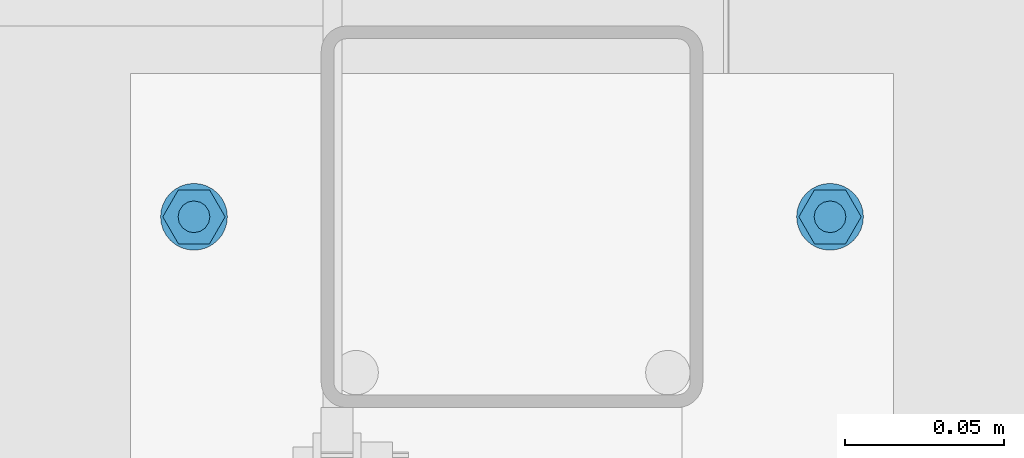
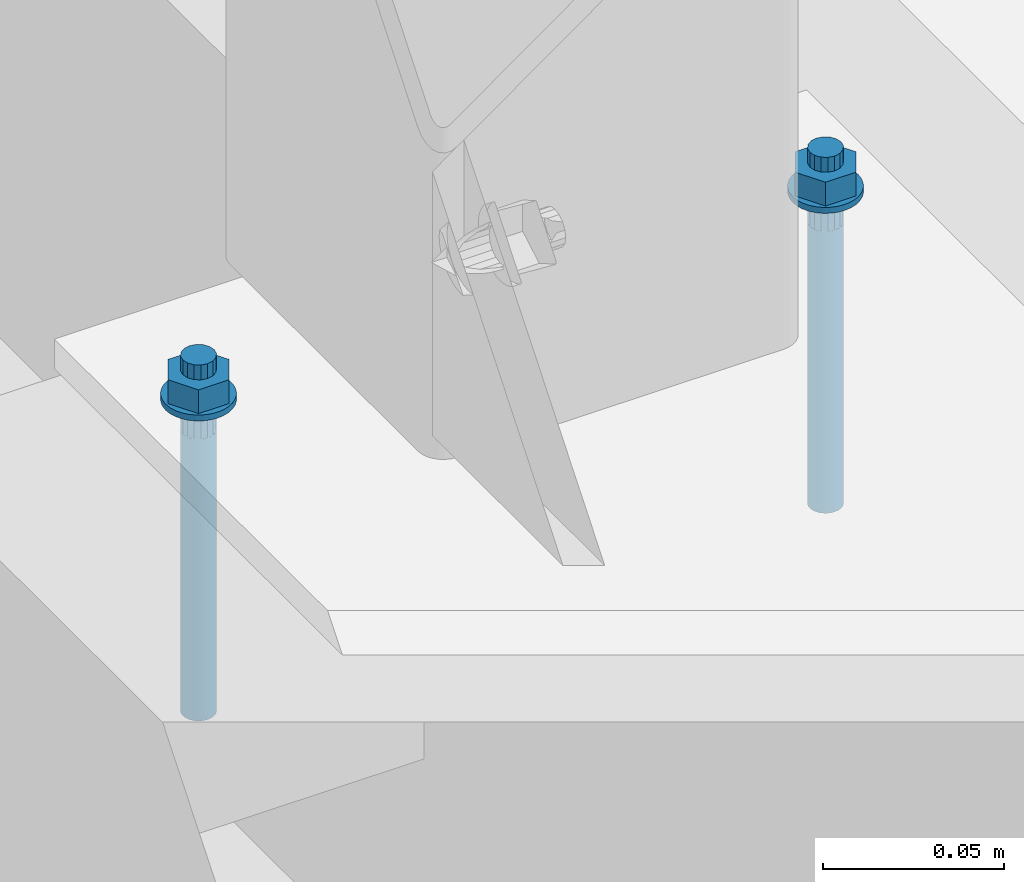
# One storey, part 92 of 476: 1 mechanical fastener.
"""IFC2X3 building model written with IfcOpenShell, lengths in millimetres."""

from ifc_helpers import new_model, entity, si_unit, converted_unit, origin_with_axes, place, context, project, spatial, faceted_brep, element, save


model = new_model("IFC2X3")

# Units and contexts
model_context = context("Model", 3, precision=1e-09, world=origin_with_axes())
ifc_project = project(units=[si_unit("LENGTHUNIT", "METRE", prefix="MILLI"), si_unit("AREAUNIT", "SQUARE_METRE"), si_unit("VOLUMEUNIT", "CUBIC_METRE"), converted_unit("PLANEANGLEUNIT", "DEGREE", entity("IfcPlaneAngleMeasure", 0.01745329), si_unit("PLANEANGLEUNIT", "RADIAN"), dimensions=[0, 0, 0, 0, 0, 0, 0])], contexts=[model_context])

# Site, building, storey
site_placement = place(None, origin_with_axes())
site = spatial("IfcSite", under=ifc_project, at=site_placement, Name="mKR Teilneubau & Sanierung BA1 - Ostfildern", CompositionType="ELEMENT")
building_placement = place(site_placement, origin_with_axes())
building = spatial("IfcBuilding", under=site, at=building_placement, Name="Struktur 1", CompositionType="ELEMENT")
storey_placement = place(building_placement, origin_with_axes())
storey = spatial("IfcBuildingStorey", under=building, at=storey_placement, Name="Default Storey", CompositionType="ELEMENT", Elevation=0.0)

# Mechanical fastener
mechanical_fastener_placement = place(None, origin_with_axes())
element("IfcMechanicalFastener", 1, at=mechanical_fastener_placement, inside=storey, ObjectType="Anchor_Bolt#1", NominalDiameter=10.0, NominalLength=120.0, context=model_context, shape_type="Brep", body=[
    faceted_brep([(8059.108804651, -19151.174034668, 527.0), (8059.108804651, -19151.174034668, 525.0), (8061.157253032, -19150.972280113, 525.0), (8061.157253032, -19150.972280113, 527.0), (8063.126980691, -19150.37476976, 525.0), (8063.126980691, -19150.37476976, 527.0), (8064.942292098, -19149.404465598, 525.0), (8064.942292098, -19149.404465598, 527.0), (8066.533425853, -19148.098655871, 525.0), (8066.533425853, -19148.098655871, 527.0), (8067.83923558, -19146.507522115, 525.0), (8067.83923558, -19146.507522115, 527.0), (8068.809539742, -19144.692210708, 525.0), (8068.809539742, -19144.692210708, 527.0), (8069.407050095, -19142.72248305, 525.0), (8069.407050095, -19142.72248305, 527.0), (8069.608804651, -19140.674034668, 525.0), (8069.608804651, -19140.674034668, 527.0), (8069.407050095, -19138.625586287, 525.0), (8069.407050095, -19138.625586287, 527.0), (8068.809539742, -19136.655858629, 525.0), (8068.809539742, -19136.655858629, 527.0), (8067.83923558, -19134.840547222, 525.0), (8067.83923558, -19134.840547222, 527.0), (8066.533425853, -19133.249413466, 525.0), (8066.533425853, -19133.249413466, 527.0), (8064.942292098, -19131.943603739, 525.0), (8064.942292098, -19131.943603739, 527.0), (8063.126980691, -19130.973299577, 525.0), (8063.126980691, -19130.973299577, 527.0), (8061.157253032, -19130.375789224, 525.0), (8061.157253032, -19130.375789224, 527.0), (8059.108804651, -19130.174034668, 525.0), (8059.108804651, -19130.174034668, 527.0), (8057.06035627, -19130.375789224, 525.0), (8057.06035627, -19130.375789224, 527.0), (8055.090628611, -19130.973299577, 525.0), (8055.090628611, -19130.973299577, 527.0), (8053.275317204, -19131.943603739, 525.0), (8053.275317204, -19131.943603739, 527.0), (8051.684183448, -19133.249413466, 525.0), (8051.684183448, -19133.249413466, 527.0), (8050.378373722, -19134.840547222, 525.0), (8050.378373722, -19134.840547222, 527.0), (8049.40806956, -19136.655858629, 525.0), (8049.40806956, -19136.655858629, 527.0), (8048.810559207, -19138.625586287, 525.0), (8048.810559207, -19138.625586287, 527.0), (8048.608804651, -19140.674034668, 525.0), (8048.608804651, -19140.674034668, 527.0), (8048.810559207, -19142.72248305, 525.0), (8048.810559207, -19142.72248305, 527.0), (8049.40806956, -19144.692210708, 525.0), (8049.40806956, -19144.692210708, 527.0), (8050.378373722, -19146.507522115, 525.0), (8050.378373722, -19146.507522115, 527.0), (8051.684183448, -19148.098655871, 525.0), (8051.684183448, -19148.098655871, 527.0), (8053.275317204, -19149.404465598, 525.0), (8053.275317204, -19149.404465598, 527.0), (8055.090628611, -19150.37476976, 525.0), (8055.090628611, -19150.37476976, 527.0), (8057.06035627, -19150.972280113, 525.0), (8057.06035627, -19150.972280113, 527.0)], [[[0, 1, 2, 3]], [[3, 2, 4, 5]], [[5, 4, 6, 7]], [[7, 6, 8, 9]], [[9, 8, 10, 11]], [[11, 10, 12, 13]], [[13, 12, 14, 15]], [[15, 14, 16, 17]], [[17, 16, 18, 19]], [[19, 18, 20, 21]], [[21, 20, 22, 23]], [[23, 22, 24, 25]], [[25, 24, 26, 27]], [[27, 26, 28, 29]], [[29, 28, 30, 31]], [[31, 30, 32, 33]], [[33, 32, 34, 35]], [[35, 34, 36, 37]], [[37, 36, 38, 39]], [[39, 38, 40, 41]], [[41, 40, 42, 43]], [[43, 42, 44, 45]], [[45, 44, 46, 47]], [[47, 46, 48, 49]], [[49, 48, 50, 51]], [[51, 50, 52, 53]], [[53, 52, 54, 55]], [[55, 54, 56, 57]], [[57, 56, 58, 59]], [[59, 58, 60, 61]], [[61, 60, 62, 63]], [[63, 62, 1, 0]], [[0, 3, 5, 7, 9, 11, 13, 15, 17, 19, 21, 23, 25, 27, 29, 31, 33, 35, 37, 39, 41, 43, 45, 47, 49, 51, 53, 55, 57, 59, 61, 63]], [[1, 62, 60, 58, 56, 54, 52, 50, 48, 46, 44, 42, 40, 38, 36, 34, 32, 30, 28, 26, 24, 22, 20, 18, 16, 14, 12, 10, 8, 6, 4, 2]]]),
    faceted_brep([(8259.108804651, -19151.174034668, 527.0), (8259.108804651, -19151.174034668, 525.0), (8261.157253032, -19150.972280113, 525.0), (8261.157253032, -19150.972280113, 527.0), (8263.126980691, -19150.37476976, 525.0), (8263.126980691, -19150.37476976, 527.0), (8264.942292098, -19149.404465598, 525.0), (8264.942292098, -19149.404465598, 527.0), (8266.533425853, -19148.098655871, 525.0), (8266.533425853, -19148.098655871, 527.0), (8267.83923558, -19146.507522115, 525.0), (8267.83923558, -19146.507522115, 527.0), (8268.809539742, -19144.692210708, 525.0), (8268.809539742, -19144.692210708, 527.0), (8269.407050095, -19142.72248305, 525.0), (8269.407050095, -19142.72248305, 527.0), (8269.608804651, -19140.674034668, 525.0), (8269.608804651, -19140.674034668, 527.0), (8269.407050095, -19138.625586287, 525.0), (8269.407050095, -19138.625586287, 527.0), (8268.809539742, -19136.655858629, 525.0), (8268.809539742, -19136.655858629, 527.0), (8267.83923558, -19134.840547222, 525.0), (8267.83923558, -19134.840547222, 527.0), (8266.533425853, -19133.249413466, 525.0), (8266.533425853, -19133.249413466, 527.0), (8264.942292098, -19131.943603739, 525.0), (8264.942292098, -19131.943603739, 527.0), (8263.126980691, -19130.973299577, 525.0), (8263.126980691, -19130.973299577, 527.0), (8261.157253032, -19130.375789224, 525.0), (8261.157253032, -19130.375789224, 527.0), (8259.108804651, -19130.174034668, 525.0), (8259.108804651, -19130.174034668, 527.0), (8257.06035627, -19130.375789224, 525.0), (8257.06035627, -19130.375789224, 527.0), (8255.090628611, -19130.973299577, 525.0), (8255.090628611, -19130.973299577, 527.0), (8253.275317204, -19131.943603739, 525.0), (8253.275317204, -19131.943603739, 527.0), (8251.684183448, -19133.249413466, 525.0), (8251.684183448, -19133.249413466, 527.0), (8250.378373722, -19134.840547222, 525.0), (8250.378373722, -19134.840547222, 527.0), (8249.40806956, -19136.655858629, 525.0), (8249.40806956, -19136.655858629, 527.0), (8248.810559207, -19138.625586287, 525.0), (8248.810559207, -19138.625586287, 527.0), (8248.608804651, -19140.674034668, 525.0), (8248.608804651, -19140.674034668, 527.0), (8248.810559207, -19142.72248305, 525.0), (8248.810559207, -19142.72248305, 527.0), (8249.40806956, -19144.692210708, 525.0), (8249.40806956, -19144.692210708, 527.0), (8250.378373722, -19146.507522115, 525.0), (8250.378373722, -19146.507522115, 527.0), (8251.684183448, -19148.098655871, 525.0), (8251.684183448, -19148.098655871, 527.0), (8253.275317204, -19149.404465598, 525.0), (8253.275317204, -19149.404465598, 527.0), (8255.090628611, -19150.37476976, 525.0), (8255.090628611, -19150.37476976, 527.0), (8257.06035627, -19150.972280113, 525.0), (8257.06035627, -19150.972280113, 527.0)], [[[0, 1, 2, 3]], [[3, 2, 4, 5]], [[5, 4, 6, 7]], [[7, 6, 8, 9]], [[9, 8, 10, 11]], [[11, 10, 12, 13]], [[13, 12, 14, 15]], [[15, 14, 16, 17]], [[17, 16, 18, 19]], [[19, 18, 20, 21]], [[21, 20, 22, 23]], [[23, 22, 24, 25]], [[25, 24, 26, 27]], [[27, 26, 28, 29]], [[29, 28, 30, 31]], [[31, 30, 32, 33]], [[33, 32, 34, 35]], [[35, 34, 36, 37]], [[37, 36, 38, 39]], [[39, 38, 40, 41]], [[41, 40, 42, 43]], [[43, 42, 44, 45]], [[45, 44, 46, 47]], [[47, 46, 48, 49]], [[49, 48, 50, 51]], [[51, 50, 52, 53]], [[53, 52, 54, 55]], [[55, 54, 56, 57]], [[57, 56, 58, 59]], [[59, 58, 60, 61]], [[61, 60, 62, 63]], [[63, 62, 1, 0]], [[0, 3, 5, 7, 9, 11, 13, 15, 17, 19, 21, 23, 25, 27, 29, 31, 33, 35, 37, 39, 41, 43, 45, 47, 49, 51, 53, 55, 57, 59, 61, 63]], [[1, 62, 60, 58, 56, 54, 52, 50, 48, 46, 44, 42, 40, 38, 36, 34, 32, 30, 28, 26, 24, 22, 20, 18, 16, 14, 12, 10, 8, 6, 4, 2]]]),
    faceted_brep([(8064.008804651, -19132.186985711, 527.0), (8064.008804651, -19132.186985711, 535.0), (8068.908804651, -19140.674034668, 535.0), (8068.908804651, -19140.674034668, 527.0), (8064.008804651, -19149.161083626, 535.0), (8064.008804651, -19149.161083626, 527.0), (8054.208804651, -19149.161083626, 535.0), (8054.208804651, -19149.161083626, 527.0), (8049.308804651, -19140.674034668, 535.0), (8049.308804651, -19140.674034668, 527.0), (8054.208804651, -19132.186985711, 535.0), (8054.208804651, -19132.186985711, 527.0)], [[[0, 1, 2, 3]], [[3, 2, 4, 5]], [[5, 4, 6, 7]], [[7, 6, 8, 9]], [[9, 8, 10, 11]], [[11, 10, 1, 0]], [[4, 2, 1, 10, 8, 6]], [[0, 3, 5, 7, 9, 11]]]),
    faceted_brep([(8264.008804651, -19132.186985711, 527.0), (8264.008804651, -19132.186985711, 535.0), (8268.908804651, -19140.674034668, 535.0), (8268.908804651, -19140.674034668, 527.0), (8264.008804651, -19149.161083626, 535.0), (8264.008804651, -19149.161083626, 527.0), (8254.208804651, -19149.161083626, 535.0), (8254.208804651, -19149.161083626, 527.0), (8249.308804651, -19140.674034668, 535.0), (8249.308804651, -19140.674034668, 527.0), (8254.208804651, -19132.186985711, 535.0), (8254.208804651, -19132.186985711, 527.0)], [[[0, 1, 2, 3]], [[3, 2, 4, 5]], [[5, 4, 6, 7]], [[7, 6, 8, 9]], [[9, 8, 10, 11]], [[11, 10, 1, 0]], [[4, 2, 1, 10, 8, 6]], [[0, 3, 5, 7, 9, 11]]]),
    faceted_brep([(8059.108804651, -19145.674034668, 540.0), (8059.108804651, -19145.674034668, 535.0), (8061.022221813, -19145.293432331, 535.0), (8061.022221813, -19145.293432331, 540.0), (8062.644338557, -19144.209568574, 535.0), (8062.644338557, -19144.209568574, 540.0), (8063.728202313, -19142.58745183, 535.0), (8063.728202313, -19142.58745183, 540.0), (8064.108804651, -19140.674034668, 535.0), (8064.108804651, -19140.674034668, 540.0), (8063.728202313, -19138.760617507, 535.0), (8063.728202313, -19138.760617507, 540.0), (8062.644338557, -19137.138500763, 535.0), (8062.644338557, -19137.138500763, 540.0), (8061.022221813, -19136.054637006, 535.0), (8061.022221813, -19136.054637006, 540.0), (8059.108804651, -19135.674034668, 535.0), (8059.108804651, -19135.674034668, 540.0), (8057.195387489, -19136.054637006, 535.0), (8057.195387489, -19136.054637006, 540.0), (8055.573270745, -19137.138500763, 535.0), (8055.573270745, -19137.138500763, 540.0), (8054.489406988, -19138.760617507, 535.0), (8054.489406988, -19138.760617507, 540.0), (8054.108804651, -19140.674034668, 535.0), (8054.108804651, -19140.674034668, 540.0), (8054.489406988, -19142.58745183, 535.0), (8054.489406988, -19142.58745183, 540.0), (8055.573270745, -19144.209568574, 535.0), (8055.573270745, -19144.209568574, 540.0), (8057.195387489, -19145.293432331, 535.0), (8057.195387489, -19145.293432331, 540.0)], [[[0, 1, 2, 3]], [[3, 2, 4, 5]], [[5, 4, 6, 7]], [[7, 6, 8, 9]], [[9, 8, 10, 11]], [[11, 10, 12, 13]], [[13, 12, 14, 15]], [[15, 14, 16, 17]], [[17, 16, 18, 19]], [[19, 18, 20, 21]], [[21, 20, 22, 23]], [[23, 22, 24, 25]], [[25, 24, 26, 27]], [[27, 26, 28, 29]], [[29, 28, 30, 31]], [[31, 30, 1, 0]], [[0, 3, 5, 7, 9, 11, 13, 15, 17, 19, 21, 23, 25, 27, 29, 31]], [[1, 30, 28, 26, 24, 22, 20, 18, 16, 14, 12, 10, 8, 6, 4, 2]]]),
    faceted_brep([(8259.108804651, -19145.674034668, 540.0), (8259.108804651, -19145.674034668, 535.0), (8261.022221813, -19145.293432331, 535.0), (8261.022221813, -19145.293432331, 540.0), (8262.644338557, -19144.209568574, 535.0), (8262.644338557, -19144.209568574, 540.0), (8263.728202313, -19142.58745183, 535.0), (8263.728202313, -19142.58745183, 540.0), (8264.108804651, -19140.674034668, 535.0), (8264.108804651, -19140.674034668, 540.0), (8263.728202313, -19138.760617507, 535.0), (8263.728202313, -19138.760617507, 540.0), (8262.644338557, -19137.138500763, 535.0), (8262.644338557, -19137.138500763, 540.0), (8261.022221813, -19136.054637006, 535.0), (8261.022221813, -19136.054637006, 540.0), (8259.108804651, -19135.674034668, 535.0), (8259.108804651, -19135.674034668, 540.0), (8257.195387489, -19136.054637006, 535.0), (8257.195387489, -19136.054637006, 540.0), (8255.573270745, -19137.138500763, 535.0), (8255.573270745, -19137.138500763, 540.0), (8254.489406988, -19138.760617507, 535.0), (8254.489406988, -19138.760617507, 540.0), (8254.108804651, -19140.674034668, 535.0), (8254.108804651, -19140.674034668, 540.0), (8254.489406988, -19142.58745183, 535.0), (8254.489406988, -19142.58745183, 540.0), (8255.573270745, -19144.209568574, 535.0), (8255.573270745, -19144.209568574, 540.0), (8257.195387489, -19145.293432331, 535.0), (8257.195387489, -19145.293432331, 540.0)], [[[0, 1, 2, 3]], [[3, 2, 4, 5]], [[5, 4, 6, 7]], [[7, 6, 8, 9]], [[9, 8, 10, 11]], [[11, 10, 12, 13]], [[13, 12, 14, 15]], [[15, 14, 16, 17]], [[17, 16, 18, 19]], [[19, 18, 20, 21]], [[21, 20, 22, 23]], [[23, 22, 24, 25]], [[25, 24, 26, 27]], [[27, 26, 28, 29]], [[29, 28, 30, 31]], [[31, 30, 1, 0]], [[0, 3, 5, 7, 9, 11, 13, 15, 17, 19, 21, 23, 25, 27, 29, 31]], [[1, 30, 28, 26, 24, 22, 20, 18, 16, 14, 12, 10, 8, 6, 4, 2]]]),
    faceted_brep([(8059.108804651, -19145.674034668, 525.0), (8059.108804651, -19145.674034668, 515.0), (8061.022221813, -19145.293432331, 515.0), (8061.022221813, -19145.293432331, 525.0), (8062.644338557, -19144.209568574, 515.0), (8062.644338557, -19144.209568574, 525.0), (8063.728202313, -19142.58745183, 515.0), (8063.728202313, -19142.58745183, 525.0), (8064.108804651, -19140.674034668, 515.0), (8064.108804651, -19140.674034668, 525.0), (8063.728202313, -19138.760617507, 515.0), (8063.728202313, -19138.760617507, 525.0), (8062.644338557, -19137.138500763, 515.0), (8062.644338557, -19137.138500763, 525.0), (8061.022221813, -19136.054637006, 515.0), (8061.022221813, -19136.054637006, 525.0), (8059.108804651, -19135.674034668, 515.0), (8059.108804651, -19135.674034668, 525.0), (8057.195387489, -19136.054637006, 515.0), (8057.195387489, -19136.054637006, 525.0), (8055.573270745, -19137.138500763, 515.0), (8055.573270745, -19137.138500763, 525.0), (8054.489406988, -19138.760617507, 515.0), (8054.489406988, -19138.760617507, 525.0), (8054.108804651, -19140.674034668, 515.0), (8054.108804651, -19140.674034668, 525.0), (8054.489406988, -19142.58745183, 515.0), (8054.489406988, -19142.58745183, 525.0), (8055.573270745, -19144.209568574, 515.0), (8055.573270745, -19144.209568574, 525.0), (8057.195387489, -19145.293432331, 515.0), (8057.195387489, -19145.293432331, 525.0)], [[[0, 1, 2, 3]], [[3, 2, 4, 5]], [[5, 4, 6, 7]], [[7, 6, 8, 9]], [[9, 8, 10, 11]], [[11, 10, 12, 13]], [[13, 12, 14, 15]], [[15, 14, 16, 17]], [[17, 16, 18, 19]], [[19, 18, 20, 21]], [[21, 20, 22, 23]], [[23, 22, 24, 25]], [[25, 24, 26, 27]], [[27, 26, 28, 29]], [[29, 28, 30, 31]], [[31, 30, 1, 0]], [[0, 3, 5, 7, 9, 11, 13, 15, 17, 19, 21, 23, 25, 27, 29, 31]], [[1, 30, 28, 26, 24, 22, 20, 18, 16, 14, 12, 10, 8, 6, 4, 2]]]),
    faceted_brep([(8259.108804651, -19145.674034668, 525.0), (8259.108804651, -19145.674034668, 515.0), (8261.022221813, -19145.293432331, 515.0), (8261.022221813, -19145.293432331, 525.0), (8262.644338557, -19144.209568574, 515.0), (8262.644338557, -19144.209568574, 525.0), (8263.728202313, -19142.58745183, 515.0), (8263.728202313, -19142.58745183, 525.0), (8264.108804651, -19140.674034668, 515.0), (8264.108804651, -19140.674034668, 525.0), (8263.728202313, -19138.760617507, 515.0), (8263.728202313, -19138.760617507, 525.0), (8262.644338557, -19137.138500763, 515.0), (8262.644338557, -19137.138500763, 525.0), (8261.022221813, -19136.054637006, 515.0), (8261.022221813, -19136.054637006, 525.0), (8259.108804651, -19135.674034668, 515.0), (8259.108804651, -19135.674034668, 525.0), (8257.195387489, -19136.054637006, 515.0), (8257.195387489, -19136.054637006, 525.0), (8255.573270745, -19137.138500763, 515.0), (8255.573270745, -19137.138500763, 525.0), (8254.489406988, -19138.760617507, 515.0), (8254.489406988, -19138.760617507, 525.0), (8254.108804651, -19140.674034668, 515.0), (8254.108804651, -19140.674034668, 525.0), (8254.489406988, -19142.58745183, 515.0), (8254.489406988, -19142.58745183, 525.0), (8255.573270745, -19144.209568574, 515.0), (8255.573270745, -19144.209568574, 525.0), (8257.195387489, -19145.293432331, 515.0), (8257.195387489, -19145.293432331, 525.0)], [[[0, 1, 2, 3]], [[3, 2, 4, 5]], [[5, 4, 6, 7]], [[7, 6, 8, 9]], [[9, 8, 10, 11]], [[11, 10, 12, 13]], [[13, 12, 14, 15]], [[15, 14, 16, 17]], [[17, 16, 18, 19]], [[19, 18, 20, 21]], [[21, 20, 22, 23]], [[23, 22, 24, 25]], [[25, 24, 26, 27]], [[27, 26, 28, 29]], [[29, 28, 30, 31]], [[31, 30, 1, 0]], [[0, 3, 5, 7, 9, 11, 13, 15, 17, 19, 21, 23, 25, 27, 29, 31]], [[1, 30, 28, 26, 24, 22, 20, 18, 16, 14, 12, 10, 8, 6, 4, 2]]]),
    faceted_brep([(8059.108804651, -19145.674034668, 515.0), (8059.108804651, -19145.674034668, 420.0), (8060.084256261, -19145.57796107, 420.0), (8060.084256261, -19145.57796107, 515.0), (8061.022221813, -19145.293432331, 420.0), (8061.022221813, -19145.293432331, 515.0), (8061.886655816, -19144.83138273, 420.0), (8061.886655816, -19144.83138273, 515.0), (8062.644338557, -19144.209568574, 420.0), (8062.644338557, -19144.209568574, 515.0), (8063.266152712, -19143.451885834, 420.0), (8063.266152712, -19143.451885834, 515.0), (8063.728202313, -19142.58745183, 420.0), (8063.728202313, -19142.58745183, 515.0), (8064.012731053, -19141.649486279, 420.0), (8064.012731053, -19141.649486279, 515.0), (8064.108804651, -19140.674034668, 420.0), (8064.108804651, -19140.674034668, 515.0), (8064.012731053, -19139.698583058, 420.0), (8064.012731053, -19139.698583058, 515.0), (8063.728202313, -19138.760617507, 420.0), (8063.728202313, -19138.760617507, 515.0), (8063.266152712, -19137.896183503, 420.0), (8063.266152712, -19137.896183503, 515.0), (8062.644338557, -19137.138500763, 420.0), (8062.644338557, -19137.138500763, 515.0), (8061.886655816, -19136.516686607, 420.0), (8061.886655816, -19136.516686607, 515.0), (8061.022221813, -19136.054637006, 420.0), (8061.022221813, -19136.054637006, 515.0), (8060.084256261, -19135.770108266, 420.0), (8060.084256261, -19135.770108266, 515.0), (8059.108804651, -19135.674034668, 420.0), (8059.108804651, -19135.674034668, 515.0), (8058.133353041, -19135.770108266, 420.0), (8058.133353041, -19135.770108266, 515.0), (8057.195387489, -19136.054637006, 420.0), (8057.195387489, -19136.054637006, 515.0), (8056.330953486, -19136.516686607, 420.0), (8056.330953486, -19136.516686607, 515.0), (8055.573270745, -19137.138500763, 420.0), (8055.573270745, -19137.138500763, 515.0), (8054.951456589, -19137.896183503, 420.0), (8054.951456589, -19137.896183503, 515.0), (8054.489406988, -19138.760617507, 420.0), (8054.489406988, -19138.760617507, 515.0), (8054.204878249, -19139.698583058, 420.0), (8054.204878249, -19139.698583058, 515.0), (8054.108804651, -19140.674034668, 420.0), (8054.108804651, -19140.674034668, 515.0), (8054.204878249, -19141.649486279, 420.0), (8054.204878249, -19141.649486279, 515.0), (8054.489406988, -19142.58745183, 420.0), (8054.489406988, -19142.58745183, 515.0), (8054.951456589, -19143.451885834, 420.0), (8054.951456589, -19143.451885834, 515.0), (8055.573270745, -19144.209568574, 420.0), (8055.573270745, -19144.209568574, 515.0), (8056.330953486, -19144.83138273, 420.0), (8056.330953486, -19144.83138273, 515.0), (8057.195387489, -19145.293432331, 420.0), (8057.195387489, -19145.293432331, 515.0), (8058.133353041, -19145.57796107, 420.0), (8058.133353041, -19145.57796107, 515.0)], [[[0, 1, 2, 3]], [[3, 2, 4, 5]], [[5, 4, 6, 7]], [[7, 6, 8, 9]], [[9, 8, 10, 11]], [[11, 10, 12, 13]], [[13, 12, 14, 15]], [[15, 14, 16, 17]], [[17, 16, 18, 19]], [[19, 18, 20, 21]], [[21, 20, 22, 23]], [[23, 22, 24, 25]], [[25, 24, 26, 27]], [[27, 26, 28, 29]], [[29, 28, 30, 31]], [[31, 30, 32, 33]], [[33, 32, 34, 35]], [[35, 34, 36, 37]], [[37, 36, 38, 39]], [[39, 38, 40, 41]], [[41, 40, 42, 43]], [[43, 42, 44, 45]], [[45, 44, 46, 47]], [[47, 46, 48, 49]], [[49, 48, 50, 51]], [[51, 50, 52, 53]], [[53, 52, 54, 55]], [[55, 54, 56, 57]], [[57, 56, 58, 59]], [[59, 58, 60, 61]], [[61, 60, 62, 63]], [[63, 62, 1, 0]], [[0, 3, 5, 7, 9, 11, 13, 15, 17, 19, 21, 23, 25, 27, 29, 31, 33, 35, 37, 39, 41, 43, 45, 47, 49, 51, 53, 55, 57, 59, 61, 63]], [[1, 62, 60, 58, 56, 54, 52, 50, 48, 46, 44, 42, 40, 38, 36, 34, 32, 30, 28, 26, 24, 22, 20, 18, 16, 14, 12, 10, 8, 6, 4, 2]]]),
    faceted_brep([(8259.108804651, -19145.674034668, 515.0), (8259.108804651, -19145.674034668, 420.0), (8260.084256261, -19145.57796107, 420.0), (8260.084256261, -19145.57796107, 515.0), (8261.022221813, -19145.293432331, 420.0), (8261.022221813, -19145.293432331, 515.0), (8261.886655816, -19144.83138273, 420.0), (8261.886655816, -19144.83138273, 515.0), (8262.644338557, -19144.209568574, 420.0), (8262.644338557, -19144.209568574, 515.0), (8263.266152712, -19143.451885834, 420.0), (8263.266152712, -19143.451885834, 515.0), (8263.728202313, -19142.58745183, 420.0), (8263.728202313, -19142.58745183, 515.0), (8264.012731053, -19141.649486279, 420.0), (8264.012731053, -19141.649486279, 515.0), (8264.108804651, -19140.674034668, 420.0), (8264.108804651, -19140.674034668, 515.0), (8264.012731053, -19139.698583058, 420.0), (8264.012731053, -19139.698583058, 515.0), (8263.728202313, -19138.760617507, 420.0), (8263.728202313, -19138.760617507, 515.0), (8263.266152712, -19137.896183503, 420.0), (8263.266152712, -19137.896183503, 515.0), (8262.644338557, -19137.138500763, 420.0), (8262.644338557, -19137.138500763, 515.0), (8261.886655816, -19136.516686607, 420.0), (8261.886655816, -19136.516686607, 515.0), (8261.022221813, -19136.054637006, 420.0), (8261.022221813, -19136.054637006, 515.0), (8260.084256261, -19135.770108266, 420.0), (8260.084256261, -19135.770108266, 515.0), (8259.108804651, -19135.674034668, 420.0), (8259.108804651, -19135.674034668, 515.0), (8258.133353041, -19135.770108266, 420.0), (8258.133353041, -19135.770108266, 515.0), (8257.195387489, -19136.054637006, 420.0), (8257.195387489, -19136.054637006, 515.0), (8256.330953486, -19136.516686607, 420.0), (8256.330953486, -19136.516686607, 515.0), (8255.573270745, -19137.138500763, 420.0), (8255.573270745, -19137.138500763, 515.0), (8254.951456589, -19137.896183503, 420.0), (8254.951456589, -19137.896183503, 515.0), (8254.489406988, -19138.760617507, 420.0), (8254.489406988, -19138.760617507, 515.0), (8254.204878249, -19139.698583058, 420.0), (8254.204878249, -19139.698583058, 515.0), (8254.108804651, -19140.674034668, 420.0), (8254.108804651, -19140.674034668, 515.0), (8254.204878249, -19141.649486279, 420.0), (8254.204878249, -19141.649486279, 515.0), (8254.489406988, -19142.58745183, 420.0), (8254.489406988, -19142.58745183, 515.0), (8254.951456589, -19143.451885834, 420.0), (8254.951456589, -19143.451885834, 515.0), (8255.573270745, -19144.209568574, 420.0), (8255.573270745, -19144.209568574, 515.0), (8256.330953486, -19144.83138273, 420.0), (8256.330953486, -19144.83138273, 515.0), (8257.195387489, -19145.293432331, 420.0), (8257.195387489, -19145.293432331, 515.0), (8258.133353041, -19145.57796107, 420.0), (8258.133353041, -19145.57796107, 515.0)], [[[0, 1, 2, 3]], [[3, 2, 4, 5]], [[5, 4, 6, 7]], [[7, 6, 8, 9]], [[9, 8, 10, 11]], [[11, 10, 12, 13]], [[13, 12, 14, 15]], [[15, 14, 16, 17]], [[17, 16, 18, 19]], [[19, 18, 20, 21]], [[21, 20, 22, 23]], [[23, 22, 24, 25]], [[25, 24, 26, 27]], [[27, 26, 28, 29]], [[29, 28, 30, 31]], [[31, 30, 32, 33]], [[33, 32, 34, 35]], [[35, 34, 36, 37]], [[37, 36, 38, 39]], [[39, 38, 40, 41]], [[41, 40, 42, 43]], [[43, 42, 44, 45]], [[45, 44, 46, 47]], [[47, 46, 48, 49]], [[49, 48, 50, 51]], [[51, 50, 52, 53]], [[53, 52, 54, 55]], [[55, 54, 56, 57]], [[57, 56, 58, 59]], [[59, 58, 60, 61]], [[61, 60, 62, 63]], [[63, 62, 1, 0]], [[0, 3, 5, 7, 9, 11, 13, 15, 17, 19, 21, 23, 25, 27, 29, 31, 33, 35, 37, 39, 41, 43, 45, 47, 49, 51, 53, 55, 57, 59, 61, 63]], [[1, 62, 60, 58, 56, 54, 52, 50, 48, 46, 44, 42, 40, 38, 36, 34, 32, 30, 28, 26, 24, 22, 20, 18, 16, 14, 12, 10, 8, 6, 4, 2]]]),
])

save(model, "model.ifc")
